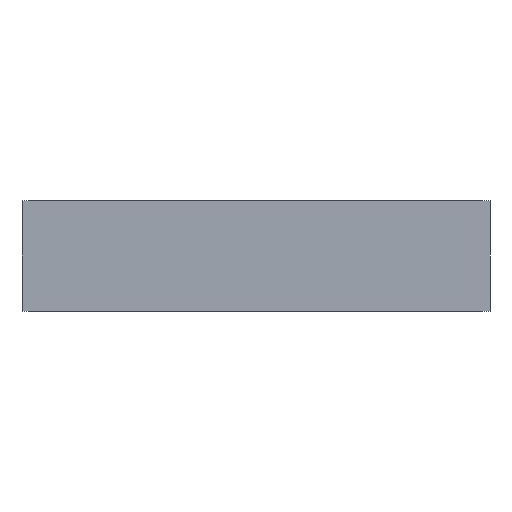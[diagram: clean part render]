
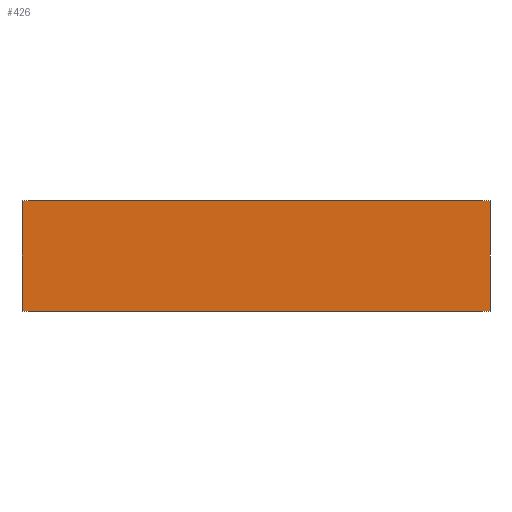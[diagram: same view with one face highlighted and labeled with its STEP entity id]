
A CAD part, front view. The second image highlights one B-rep face of the part: STEP entity #426.
In plain terms, the highlighted planar face has unit normal (0, -1, 0).
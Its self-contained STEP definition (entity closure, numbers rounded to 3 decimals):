
#132 = ORIENTED_EDGE ( 'NONE', *, *, #905, .T. ) ;
#133 = ORIENTED_EDGE ( 'NONE', *, *, #906, .F. ) ;
#158 = ORIENTED_EDGE ( 'NONE', *, *, #898, .F. ) ;
#159 = ORIENTED_EDGE ( 'NONE', *, *, #907, .T. ) ;
#212 = EDGE_LOOP ( 'NONE', ( #132, #133, #158, #159 ) ) ;
#232 = FACE_OUTER_BOUND ( 'NONE', #212, .T. ) ;
#325 = LINE ( 'NONE', #753, #340 ) ;
#337 = LINE ( 'NONE', #768, #354 ) ;
#340 = VECTOR ( 'NONE', #757, 1000. ) ;
#341 = LINE ( 'NONE', #772, #356 ) ;
#354 = VECTOR ( 'NONE', #803, 1000. ) ;
#356 = VECTOR ( 'NONE', #805, 1000. ) ;
#358 = LINE ( 'NONE', #800, #359 ) ;
#359 = VECTOR ( 'NONE', #801, 1000. ) ;
#426 = ADVANCED_FACE ( 'NONE', ( #232 ), #525, .F. ) ;
#442 = CARTESIAN_POINT ( 'NONE',  ( -254., 0., 0. ) ) ;
#455 = CARTESIAN_POINT ( 'NONE',  ( -254., 0., 120. ) ) ;
#469 = CARTESIAN_POINT ( 'NONE',  ( 254., 0., 120. ) ) ;
#470 = CARTESIAN_POINT ( 'NONE',  ( 254., 0., 0. ) ) ;
#519 = DIRECTION ( 'NONE',  ( 0., 1., 0. ) ) ;
#520 = DIRECTION ( 'NONE',  ( -1., 0., 0. ) ) ;
#521 = CARTESIAN_POINT ( 'NONE',  ( -254., 0., 120. ) ) ;
#525 = PLANE ( 'NONE',  #945 ) ;
#569 = VERTEX_POINT ( 'NONE', #470 ) ;
#572 = VERTEX_POINT ( 'NONE', #469 ) ;
#599 = VERTEX_POINT ( 'NONE', #455 ) ;
#623 = VERTEX_POINT ( 'NONE', #442 ) ;
#753 = CARTESIAN_POINT ( 'NONE',  ( -254., 0., 120. ) ) ;
#757 = DIRECTION ( 'NONE',  ( 1., 0., 0. ) ) ;
#768 = CARTESIAN_POINT ( 'NONE',  ( -254., 0., 0. ) ) ;
#772 = CARTESIAN_POINT ( 'NONE',  ( 254., 0., 120. ) ) ;
#800 = CARTESIAN_POINT ( 'NONE',  ( -254., 0., 120. ) ) ;
#801 = DIRECTION ( 'NONE',  ( 0., 0., -1. ) ) ;
#803 = DIRECTION ( 'NONE',  ( 1., 0., 0. ) ) ;
#805 = DIRECTION ( 'NONE',  ( 0., 0., -1. ) ) ;
#898 = EDGE_CURVE ( 'NONE', #599, #572, #325, .T. ) ;
#905 = EDGE_CURVE ( 'NONE', #623, #569, #337, .T. ) ;
#906 = EDGE_CURVE ( 'NONE', #572, #569, #341, .T. ) ;
#907 = EDGE_CURVE ( 'NONE', #599, #623, #358, .T. ) ;
#945 = AXIS2_PLACEMENT_3D ( 'NONE', #521, #519, #520 ) ;
